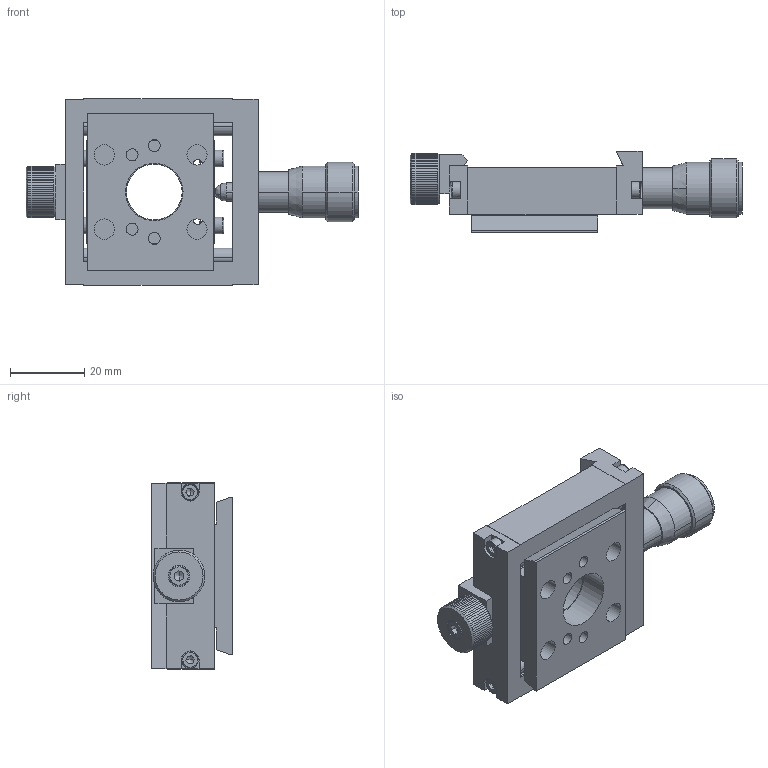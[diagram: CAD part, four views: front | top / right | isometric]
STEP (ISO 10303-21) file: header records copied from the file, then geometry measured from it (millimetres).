
FILE_DESCRIPTION (( 'STEP AP203' ), '1' );
FILE_NAME ('7T8-01.STEP', '2007-10-27T11:35:26', ( 'STANDA' ), ( '' ), 'SwSTEP 2.0', 'SolidWorks 2003240', '' );
FILE_SCHEMA (( 'CONFIG_CONTROL_DESIGN' ));
Length unit declared in the file: millimetre
Products named in the file (1): 7T8-01
Bounding box: 89.51 x 22 x 50.2 mm (x, y, z)
Volume: 36500.6 mm3; surface area: 22166.3 mm2
Topology: 1 solids, 22 shells, 666 faces, 1738 edges, 1121 vertices
Faces by surface type: plane 322, cylinder 167, bspline 93, cone 84
Entity records: 22581 total; most frequent: CARTESIAN_POINT 6974, ORIENTED_EDGE 3386, DIRECTION 2910, EDGE_CURVE 1693, VERTEX_POINT 1121, AXIS2_PLACEMENT_3D 1045, LINE 820, VECTOR 820
